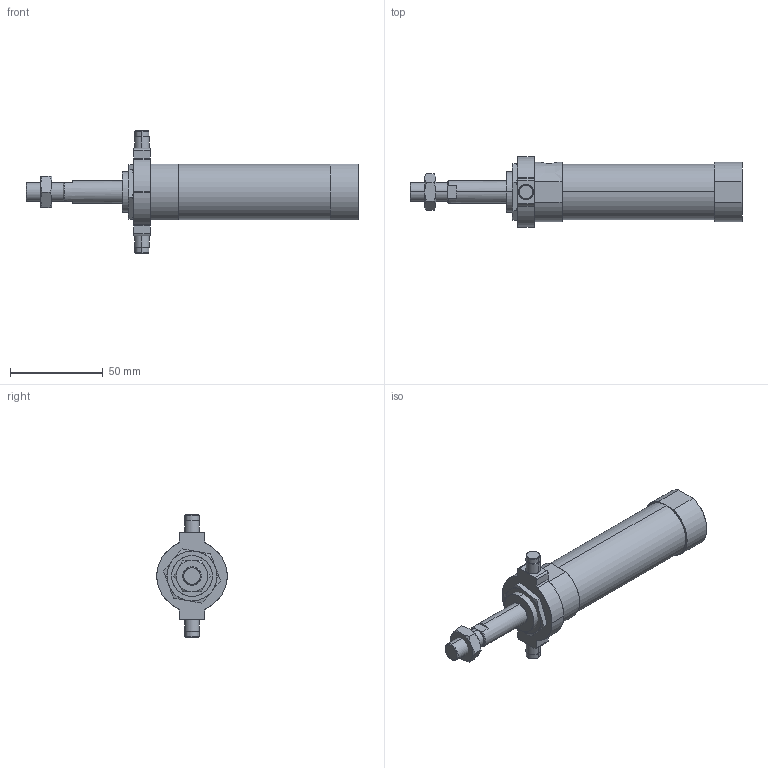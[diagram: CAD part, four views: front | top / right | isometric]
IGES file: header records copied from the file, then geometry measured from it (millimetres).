
Start section: SolidWorks IGES file using analytic representation for surfaces
Global section: file name: C:\Users\Toshiba\Desktop\JGND0-25-25-T.IGS; native system: SolidWorks 2014; preprocessor: SolidWorks 2014; author: Toshiba; date: 160804.100939; units: millimetre
Bounding box: 179 x 38 x 66 mm (x, y, z)
Surface area: 21972 mm2 (no closed solid volume)
Topology: 0 solids, 0 shells, 124 faces, 2014 edges, 2012 vertices
Faces by surface type: bspline 69, revolution 55
